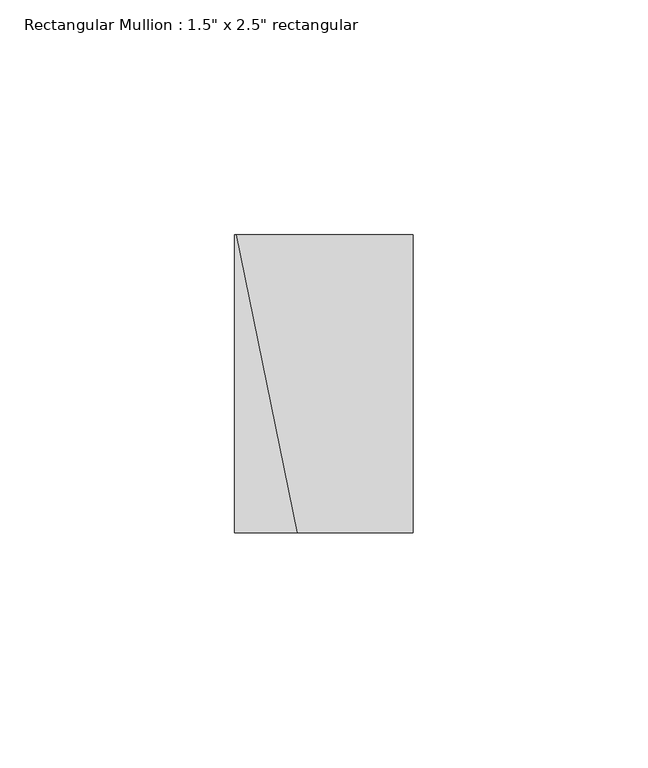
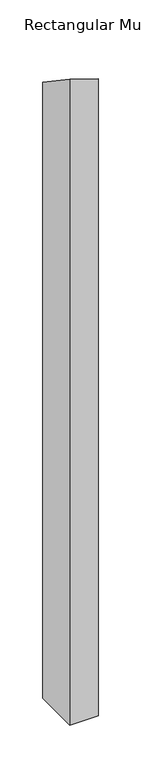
"""IFC4 building model written with IfcOpenShell, lengths in millimetres: member geometry."""

from ifc_helpers import new_model, si_unit, origin, place, context, project, spatial, faceted_brep, source, transform, mapped, element, save


def member_854372c8(model_context):
    return source(origin(), model_context, "Body", "Brep", [
        faceted_brep([(19.05, 31.75, -934.9918398), (19.05, -31.75, -934.9918398), (-19.05, -31.75, -934.9918398), (-19.05, 31.75, -934.9918398), (-19.05, 31.75, -54.9120843), (-18.6131898, 31.75, -55.0698326), (19.05, 31.75, -66.940079), (-19.05, -31.75, -11.5618632), (19.05, -31.75, -24.1901243), (-5.5550397, -31.75, -16.4353939)], [[[0, 1, 2, 3]], [[4, 5, 6, 0, 3]], [[7, 4, 3, 2]], [[8, 9, 7, 2, 1]], [[6, 8, 1, 0]], [[6, 5, 9, 8]], [[5, 4, 7, 9]]]),
    ])


if __name__ == "__main__":
    model = new_model("IFC4")
    model_context = context("Model", 3, world=origin())
    ifc_project = project(units=[si_unit("LENGTHUNIT", "METRE", prefix="MILLI")], contexts=[model_context])
    site = spatial("IfcSite", under=ifc_project)
    building = spatial("IfcBuilding", under=site)
    placement = place(None, origin())
    member_shape = member_854372c8(model_context)
    element("IfcMember", 1, ObjectType="Rectangular Mullion : 1.5\" x 2.5\" rectangular", at=placement, inside=building, context=model_context, shape_type="MappedRepresentation", body=[
        mapped(member_shape, transform((0.0, 0.0, 0.0), x_axis=(1.0, 0.0, 0.0), y_axis=(0.0, 1.0, 0.0), z_axis=(0.0, 0.0, 1.0))),
    ])
    save(model, "model.ifc")
